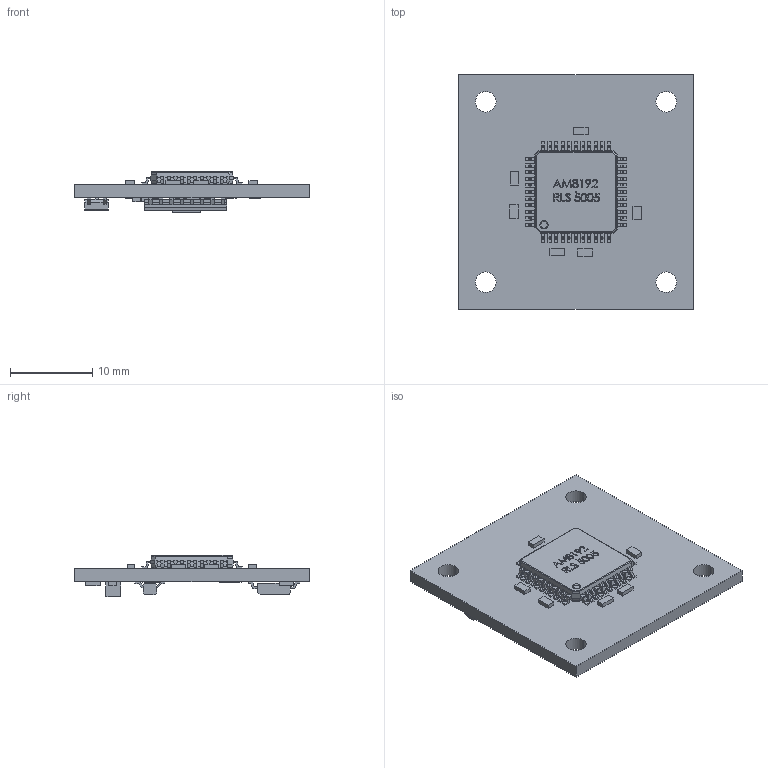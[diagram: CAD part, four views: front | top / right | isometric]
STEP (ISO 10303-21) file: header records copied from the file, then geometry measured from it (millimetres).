
FILE_DESCRIPTION (( 'STEP AP214' ), '1' );
FILE_NAME ('RMB28IC_HR-AM8192-MODM238.STEP', '2017-07-14T09:06:49', ( '' ), ( '' ), 'SwSTEP 2.0', 'SolidWorks 2016', '' );
FILE_SCHEMA (( 'AUTOMOTIVE_DESIGN' ));
Length unit declared in the file: millimetre
Products named in the file (1): RMB28IC_HR-AM8192-MODM238
Bounding box: 28.5 x 28.5 x 5.01 mm (x, y, z)
Volume: 1517.7 mm3; surface area: 2170.5 mm2
Topology: 1 solids, 1 shells, 1032 faces, 3097 edges, 2052 vertices
Faces by surface type: plane 830, cylinder 114, bspline 86, torus 2
Entity records: 41516 total; most frequent: CARTESIAN_POINT 11924, ORIENTED_EDGE 6194, DIRECTION 5005, EDGE_CURVE 3097, LINE 2707, VECTOR 2707, VERTEX_POINT 2052, EDGE_LOOP 1151
